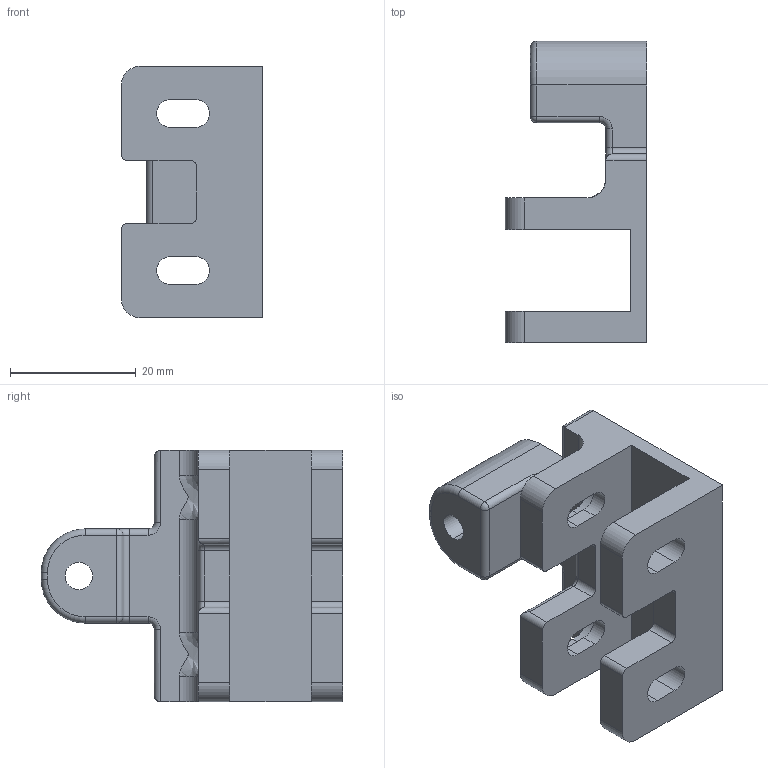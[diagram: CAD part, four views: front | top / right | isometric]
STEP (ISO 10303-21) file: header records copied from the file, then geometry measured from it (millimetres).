
FILE_DESCRIPTION (( 'STEP AP203' ), '1' );
FILE_NAME ('fix1_masse.STEP', '2020-03-27T11:10:54', ( '' ), ( '' ), 'SwSTEP 2.0', 'SolidWorks 2020', '' );
FILE_SCHEMA (( 'CONFIG_CONTROL_DESIGN' ));
Length unit declared in the file: millimetre
Products named in the file (1): fix1_masse
Bounding box: 22.5 x 48 x 40 mm (x, y, z)
Volume: 13431.3 mm3; surface area: 7749.5 mm2
Topology: 1 solids, 1 shells, 111 faces, 294 edges, 184 vertices
Faces by surface type: cylinder 57, plane 42, torus 8, bspline 2, sphere 2
Entity records: 3753 total; most frequent: CARTESIAN_POINT 840, DIRECTION 624, ORIENTED_EDGE 584, EDGE_CURVE 292, AXIS2_PLACEMENT_3D 228, VERTEX_POINT 184, VECTOR 168, LINE 168
